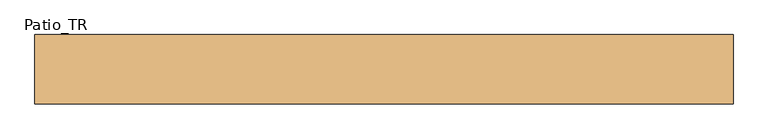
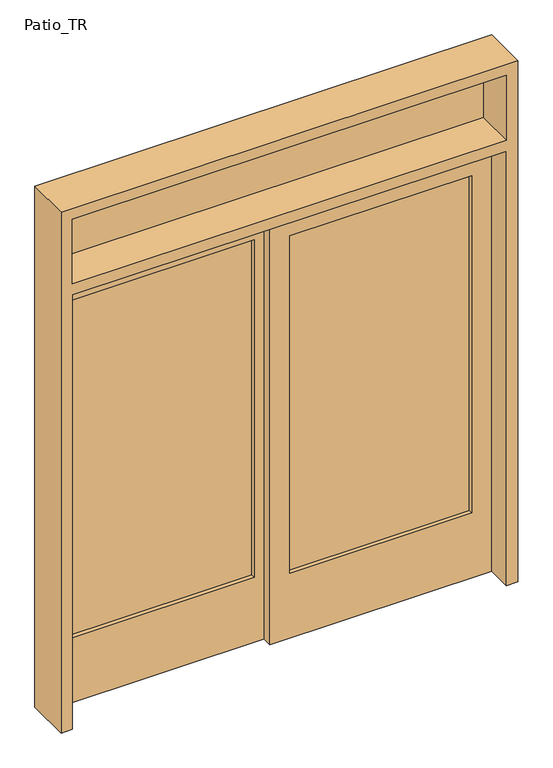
"""IFC4 building model written with IfcOpenShell, lengths in millimetres: door geometry."""

from ifc_helpers import new_model, si_unit, frame, origin, place, context, project, spatial, polyline, outline, extrude, source, transform, mapped, element, save


def patio_tr_670d378e(model_context):
    return source(origin(), model_context, "Body", "SweptSolid", [
        extrude(outline(polyline([(0.0, -1016.0), (0.0, -965.2), (2044.7, -965.2), (2044.7, 965.2), (0.0, 965.2), (0.0, 1016.0), (2451.1, 1016.0), (2451.1, -1016.0), (0.0, -1016.0)]), holes=[polyline([(2095.5, 965.2), (2095.5, -965.2), (2400.3, -965.2), (2400.3, 965.2), (2095.5, 965.2)])]), frame((0.0, -100.80625, 0.0), z_axis=(0.0, 1.0, 0.0), x_axis=(0.0, 0.0, 1.0)), (0.0, 0.0, 1.0), 201.6125),
        extrude(outline(polyline([(-965.2, 81.75625), (965.2, 81.75625), (965.2, 75.40625), (-965.2, 75.40625), (-965.2, 81.75625)])), frame((0.0, 0.0, 2095.5), z_axis=(0.0, 0.0, 1.0), x_axis=(1.0, 0.0, 0.0)), (0.0, 0.0, 1.0), 304.8),
        extrude(outline(polyline([(-876.3, 81.75625), (-66.675, 81.75625), (-66.675, 75.40625), (-876.3, 75.40625), (-876.3, 81.75625)])), frame((0.0, 0.0, 304.8), z_axis=(0.0, 0.0, 1.0), x_axis=(1.0, 0.0, 0.0)), (0.0, 0.0, 1.0), 1587.5),
        extrude(outline(polyline([(66.675, 37.30625), (876.3, 37.30625), (876.3, 30.95625), (66.675, 30.95625), (66.675, 37.30625)])), frame((0.0, 0.0, 304.8), z_axis=(0.0, 0.0, 1.0), x_axis=(1.0, 0.0, 0.0)), (0.0, 0.0, 1.0), 1587.5),
        extrude(outline(polyline([(2044.7, -22.225), (0.0, -22.225), (0.0, 965.2), (2044.7, 965.2), (2044.7, -22.225)]), holes=[polyline([(1892.3, 66.675), (1892.3, 876.3), (304.8, 876.3), (304.8, 66.675), (1892.3, 66.675)])]), frame((0.0, 11.90625, 0.0), z_axis=(0.0, 1.0, 0.0), x_axis=(0.0, 0.0, 1.0)), (0.0, 0.0, 1.0), 44.45),
        extrude(outline(polyline([(2044.7, -965.2), (0.0, -965.2), (0.0, 22.225), (2044.7, 22.225), (2044.7, -965.2)]), holes=[polyline([(1892.3, -876.3), (1892.3, -66.675), (304.8, -66.675), (304.8, -876.3), (1892.3, -876.3)])]), frame((0.0, 56.35625, 0.0), z_axis=(0.0, 1.0, 0.0), x_axis=(0.0, 0.0, 1.0)), (0.0, 0.0, 1.0), 44.45),
    ])


if __name__ == "__main__":
    model = new_model("IFC4")
    model_context = context("Model", 3, world=origin())
    ifc_project = project(units=[si_unit("LENGTHUNIT", "METRE", prefix="MILLI")], contexts=[model_context])
    site = spatial("IfcSite", under=ifc_project)
    building = spatial("IfcBuilding", under=site)
    placement = place(None, origin())
    patio_tr_shape = patio_tr_670d378e(model_context)
    element("IfcDoor", 1, ObjectType="Patio_TR : 6'-0\" x 6'-8\" w/ 1'-0\" TR", at=placement, inside=building, context=model_context, shape_type="MappedRepresentation", body=[
        mapped(patio_tr_shape, transform((0.0, 0.0, 0.0), x_axis=(1.0, 0.0, 0.0), y_axis=(0.0, 1.0, 0.0), z_axis=(0.0, 0.0, 1.0))),
    ])
    save(model, "model.ifc")
